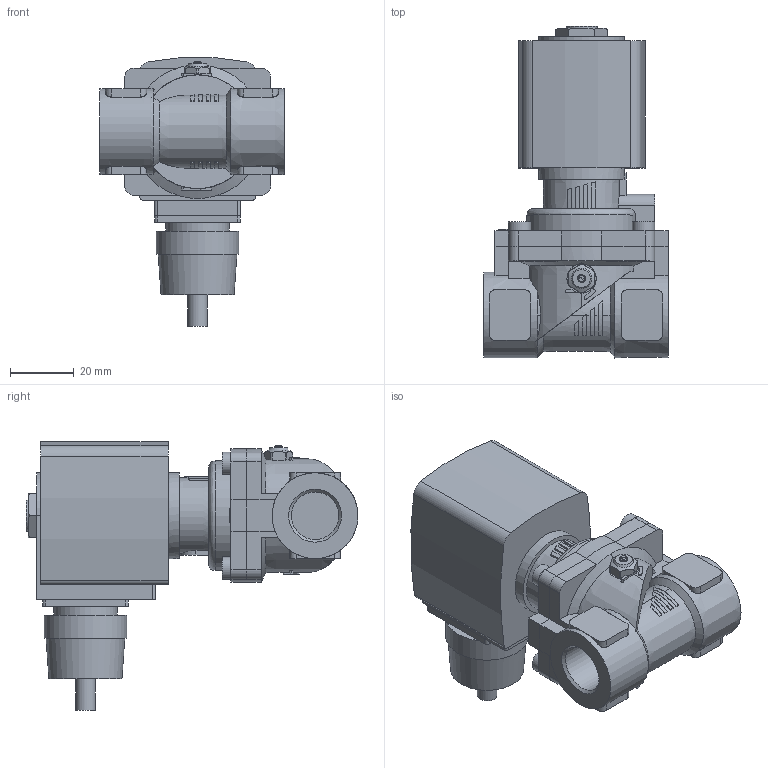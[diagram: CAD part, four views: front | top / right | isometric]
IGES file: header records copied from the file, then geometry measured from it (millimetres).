
Start section: Data from Parasolid IGES Translator 26.0.171, Copyright(c) 2006 Siemens PLM Software. All Rights Reserved.
Global section: file name: 6281-349686-2_2-Way_Solenoid_Valve__Servo-assisted__General_Purpose.igs; native system: By Siemens PLM Incorporated; preprocessor: XPlus GENERIC/IGES 26.0.171; author: Noname; organization: Noname; date: 20240617.163622; units: millimetre
Bounding box: 58 x 104.5 x 84.63 mm (x, y, z)
Surface area: 32024.8 mm2 (no closed solid volume)
Topology: 0 solids, 0 shells, 371 faces, 1990 edges, 1973 vertices
Faces by surface type: extrusion 210, revolution 161
